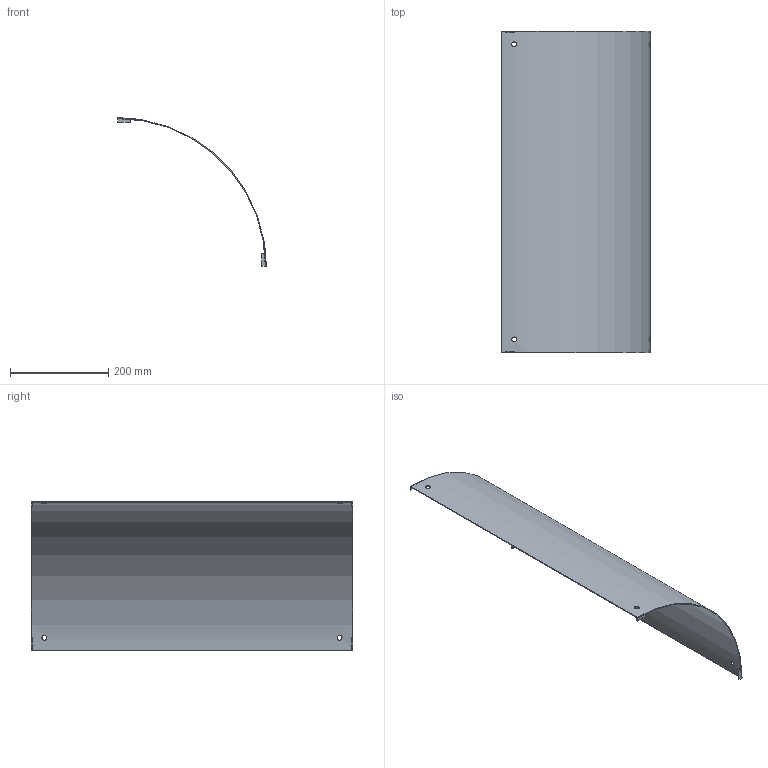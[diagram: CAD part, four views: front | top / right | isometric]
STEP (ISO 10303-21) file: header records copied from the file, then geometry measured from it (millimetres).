
FILE_DESCRIPTION(/* description */ ('','CAx-IF Rec.Pracs.---Representation and Presentation of Product Manufacturing Information (PMI)---4.0---2014-10-13'),/* implementation_level */ '2;1');
FILE_NAME(/* name */ 'Eurostrut_EORC600-90-300_Cover Outside Riser 90 for Cable Ladder ECL.step',/* time_stamp */ '2026-09-10T12:23:47+02:00',/* author */ (''),/* organization */ (''),/* preprocessor_version */ 'ST-DEVELOPER v20.1',/* originating_system */ 'Autodesk Revit 2027 27.2.0.39',/* authorisation */ '');
FILE_SCHEMA (('AP242_MANAGED_MODEL_BASED_3D_ENGINEERING_MIM_LF { 1 0 10303 442 2 1 4 }'));
Length unit declared in the file: millimetre
Products named in the file (3): TopLevelAssembly; Sweep; Joined Solid Geometry
Assembly tree (2 placements, depth 2):
  TopLevelAssembly
    Sweep
    Joined Solid Geometry
Bounding box: 301.5 x 653 x 301.5 mm (x, y, z)
Volume: 463387.6 mm3; surface area: 621805.5 mm2
Topology: 5 solids, 5 shells, 38 faces, 84 edges, 56 vertices
Faces by surface type: plane 20, cylinder 18
Entity records: 1356 total; most frequent: CARTESIAN_POINT 459, DIRECTION 174, ORIENTED_EDGE 168, EDGE_CURVE 84, AXIS2_PLACEMENT_3D 63, VERTEX_POINT 56, LINE 48, VECTOR 48
